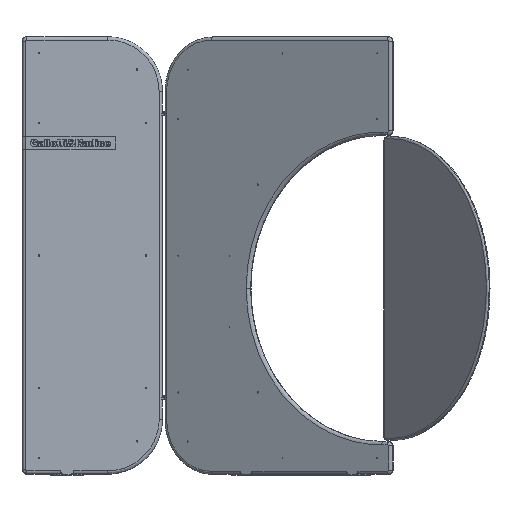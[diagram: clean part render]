
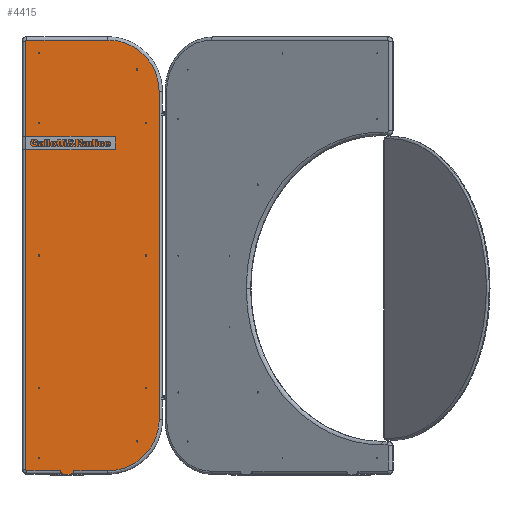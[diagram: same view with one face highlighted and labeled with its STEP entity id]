
A CAD part, front view. The second image highlights one B-rep face of the part: STEP entity #4415.
In plain terms, the highlighted planar face has unit normal (0, -1, 0).
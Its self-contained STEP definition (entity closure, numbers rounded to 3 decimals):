
#4415=ADVANCED_FACE('',(#5335),#22314,.T.);
#5335=FACE_OUTER_BOUND('',#6293,.T.);
#6293=EDGE_LOOP('',(#8672,#8673,#8674,#8675,#8676,#8677,#8678,#8679,#8680,
#8681,#8682,#8683,#8684,#8685));
#8672=ORIENTED_EDGE('',*,*,#12942,.T.);
#8673=ORIENTED_EDGE('',*,*,#12944,.F.);
#8674=ORIENTED_EDGE('',*,*,#12935,.T.);
#8675=ORIENTED_EDGE('',*,*,#12936,.T.);
#8676=ORIENTED_EDGE('',*,*,#12943,.T.);
#8677=ORIENTED_EDGE('',*,*,#12937,.T.);
#8678=ORIENTED_EDGE('',*,*,#13003,.T.);
#8679=ORIENTED_EDGE('',*,*,#12938,.T.);
#8680=ORIENTED_EDGE('',*,*,#13012,.T.);
#8681=ORIENTED_EDGE('',*,*,#12939,.T.);
#8682=ORIENTED_EDGE('',*,*,#12997,.T.);
#8683=ORIENTED_EDGE('',*,*,#12940,.T.);
#8684=ORIENTED_EDGE('',*,*,#13001,.T.);
#8685=ORIENTED_EDGE('',*,*,#12941,.T.);
#12935=EDGE_CURVE('',#19744,#19745,#16126,.T.);
#12936=EDGE_CURVE('',#19745,#19823,#18814,.T.);
#12937=EDGE_CURVE('',#19746,#19747,#16127,.T.);
#12938=EDGE_CURVE('',#19748,#19749,#16128,.T.);
#12939=EDGE_CURVE('',#19750,#19751,#16129,.T.);
#12940=EDGE_CURVE('',#19752,#19753,#16130,.T.);
#12941=EDGE_CURVE('',#19754,#19755,#16131,.T.);
#12942=EDGE_CURVE('',#19755,#19822,#18815,.T.);
#12943=EDGE_CURVE('',#19823,#19746,#18816,.T.);
#12944=EDGE_CURVE('',#19744,#19822,#18817,.T.);
#12997=EDGE_CURVE('',#19751,#19752,#18822,.T.);
#13001=EDGE_CURVE('',#19753,#19754,#18826,.T.);
#13003=EDGE_CURVE('',#19747,#19748,#18828,.T.);
#13012=EDGE_CURVE('',#19749,#19750,#18837,.T.);
#16126=B_SPLINE_CURVE_WITH_KNOTS('',1,(#30977,#30978),.UNSPECIFIED.,.F.,
 .F.,(2,2),(0.,30.),.UNSPECIFIED.);
#16127=B_SPLINE_CURVE_WITH_KNOTS('',1,(#30982,#30983),.UNSPECIFIED.,.F.,
 .F.,(2,2),(0.,155.),.UNSPECIFIED.);
#16128=B_SPLINE_CURVE_WITH_KNOTS('',1,(#30984,#30985),.UNSPECIFIED.,.F.,
 .F.,(2,2),(0.,1500.),.UNSPECIFIED.);
#16129=B_SPLINE_CURVE_WITH_KNOTS('',1,(#30986,#30987),.UNSPECIFIED.,.F.,
 .F.,(2,2),(0.,370.),.UNSPECIFIED.);
#16130=B_SPLINE_CURVE_WITH_KNOTS('',1,(#30988,#30989),.UNSPECIFIED.,.F.,
 .F.,(2,2),(0.,1960.),.UNSPECIFIED.);
#16131=B_SPLINE_CURVE_WITH_KNOTS('',1,(#30990,#30991),.UNSPECIFIED.,.F.,
 .F.,(2,2),(0.,155.),.UNSPECIFIED.);
#18814=(
BOUNDED_CURVE()
B_SPLINE_CURVE(2,(#30979,#30980,#30981),.UNSPECIFIED.,.F.,.F.)
B_SPLINE_CURVE_WITH_KNOTS((3,3),(0.,23.559),.UNSPECIFIED.)
CURVE()
GEOMETRIC_REPRESENTATION_ITEM()
RATIONAL_B_SPLINE_CURVE((1.,0.707,1.))
REPRESENTATION_ITEM('')
);
#18815=(
BOUNDED_CURVE()
B_SPLINE_CURVE(2,(#30992,#30993,#30994),.UNSPECIFIED.,.F.,.F.)
B_SPLINE_CURVE_WITH_KNOTS((3,3),(0.,0.003),.UNSPECIFIED.)
CURVE()
GEOMETRIC_REPRESENTATION_ITEM()
RATIONAL_B_SPLINE_CURVE((1.,1.,1.))
REPRESENTATION_ITEM('')
);
#18816=(
BOUNDED_CURVE()
B_SPLINE_CURVE(2,(#30995,#30996,#30997),.UNSPECIFIED.,.F.,.F.)
B_SPLINE_CURVE_WITH_KNOTS((3,3),(23.559,23.562),
 .UNSPECIFIED.)
CURVE()
GEOMETRIC_REPRESENTATION_ITEM()
RATIONAL_B_SPLINE_CURVE((1.,1.,1.))
REPRESENTATION_ITEM('')
);
#18817=(
BOUNDED_CURVE()
B_SPLINE_CURVE(2,(#30998,#30999,#31000),.UNSPECIFIED.,.F.,.F.)
B_SPLINE_CURVE_WITH_KNOTS((3,3),(-23.562,-0.003),
 .UNSPECIFIED.)
CURVE()
GEOMETRIC_REPRESENTATION_ITEM()
RATIONAL_B_SPLINE_CURVE((1.,0.707,1.))
REPRESENTATION_ITEM('')
);
#18822=(
BOUNDED_CURVE()
B_SPLINE_CURVE(2,(#31109,#31110,#31111),.UNSPECIFIED.,.F.,.F.)
B_SPLINE_CURVE_WITH_KNOTS((3,3),(-7.854,0.),.UNSPECIFIED.)
CURVE()
GEOMETRIC_REPRESENTATION_ITEM()
RATIONAL_B_SPLINE_CURVE((1.,0.707,1.))
REPRESENTATION_ITEM('')
);
#18826=(
BOUNDED_CURVE()
B_SPLINE_CURVE(2,(#31121,#31122,#31123),.UNSPECIFIED.,.F.,.F.)
B_SPLINE_CURVE_WITH_KNOTS((3,3),(-7.854,0.),.UNSPECIFIED.)
CURVE()
GEOMETRIC_REPRESENTATION_ITEM()
RATIONAL_B_SPLINE_CURVE((1.,0.707,1.))
REPRESENTATION_ITEM('')
);
#18828=(
BOUNDED_CURVE()
B_SPLINE_CURVE(2,(#31127,#31128,#31129),.UNSPECIFIED.,.F.,.F.)
B_SPLINE_CURVE_WITH_KNOTS((3,3),(-369.137,0.),.UNSPECIFIED.)
CURVE()
GEOMETRIC_REPRESENTATION_ITEM()
RATIONAL_B_SPLINE_CURVE((1.,0.707,1.))
REPRESENTATION_ITEM('')
);
#18837=(
BOUNDED_CURVE()
B_SPLINE_CURVE(2,(#31154,#31155,#31156),.UNSPECIFIED.,.F.,.F.)
B_SPLINE_CURVE_WITH_KNOTS((3,3),(-369.137,0.),.UNSPECIFIED.)
CURVE()
GEOMETRIC_REPRESENTATION_ITEM()
RATIONAL_B_SPLINE_CURVE((1.,0.707,1.))
REPRESENTATION_ITEM('')
);
#19744=VERTEX_POINT('',#30697);
#19745=VERTEX_POINT('',#30698);
#19746=VERTEX_POINT('',#30699);
#19747=VERTEX_POINT('',#30700);
#19748=VERTEX_POINT('',#30701);
#19749=VERTEX_POINT('',#30702);
#19750=VERTEX_POINT('',#30703);
#19751=VERTEX_POINT('',#30704);
#19752=VERTEX_POINT('',#30705);
#19753=VERTEX_POINT('',#30706);
#19754=VERTEX_POINT('',#30707);
#19755=VERTEX_POINT('',#30708);
#19822=VERTEX_POINT('',#30775);
#19823=VERTEX_POINT('',#30776);
#22314=PLANE('',#23523);
#23523=AXIS2_PLACEMENT_3D('',#30055,#24335,$);
#24335=DIRECTION('',(0.,-1.,0.));
#30055=CARTESIAN_POINT('',(-251.,-15.,-193.5));
#30697=CARTESIAN_POINT('',(-15.,-15.,5.));
#30698=CARTESIAN_POINT('',(15.,-15.,5.));
#30699=CARTESIAN_POINT('',(30.,-15.,20.));
#30700=CARTESIAN_POINT('',(185.,-15.,20.));
#30701=CARTESIAN_POINT('',(420.,-15.,255.));
#30702=CARTESIAN_POINT('',(420.,-15.,1755.));
#30703=CARTESIAN_POINT('',(185.,-15.,1990.));
#30704=CARTESIAN_POINT('',(-185.,-15.,1990.));
#30705=CARTESIAN_POINT('',(-190.,-15.,1985.));
#30706=CARTESIAN_POINT('',(-190.,-15.,25.));
#30707=CARTESIAN_POINT('',(-185.,-15.,20.));
#30708=CARTESIAN_POINT('',(-30.,-15.,20.));
#30775=CARTESIAN_POINT('',(-30.,-15.,19.997));
#30776=CARTESIAN_POINT('',(30.,-15.,19.997));
#30977=CARTESIAN_POINT('',(-15.,-15.,5.));
#30978=CARTESIAN_POINT('',(15.,-15.,5.));
#30979=CARTESIAN_POINT('',(15.,-15.,5.));
#30980=CARTESIAN_POINT('',(29.997,-15.,5.));
#30981=CARTESIAN_POINT('',(30.,-15.,19.997));
#30982=CARTESIAN_POINT('',(30.,-15.,20.));
#30983=CARTESIAN_POINT('',(185.,-15.,20.));
#30984=CARTESIAN_POINT('',(420.,-15.,255.));
#30985=CARTESIAN_POINT('',(420.,-15.,1755.));
#30986=CARTESIAN_POINT('',(185.,-15.,1990.));
#30987=CARTESIAN_POINT('',(-185.,-15.,1990.));
#30988=CARTESIAN_POINT('',(-190.,-15.,1985.));
#30989=CARTESIAN_POINT('',(-190.,-15.,25.));
#30990=CARTESIAN_POINT('',(-185.,-15.,20.));
#30991=CARTESIAN_POINT('',(-30.,-15.,20.));
#30992=CARTESIAN_POINT('',(-30.,-15.,20.));
#30993=CARTESIAN_POINT('',(-30.,-15.,19.999));
#30994=CARTESIAN_POINT('',(-30.,-15.,19.997));
#30995=CARTESIAN_POINT('',(30.,-15.,19.997));
#30996=CARTESIAN_POINT('',(30.,-15.,19.999));
#30997=CARTESIAN_POINT('',(30.,-15.,20.));
#30998=CARTESIAN_POINT('',(-15.,-15.,5.));
#30999=CARTESIAN_POINT('',(-29.997,-15.,5.));
#31000=CARTESIAN_POINT('',(-30.,-15.,19.997));
#31109=CARTESIAN_POINT('',(-185.,-15.,1990.));
#31110=CARTESIAN_POINT('',(-190.,-15.,1990.));
#31111=CARTESIAN_POINT('',(-190.,-15.,1985.));
#31121=CARTESIAN_POINT('',(-190.,-15.,25.));
#31122=CARTESIAN_POINT('',(-190.,-15.,20.));
#31123=CARTESIAN_POINT('',(-185.,-15.,20.));
#31127=CARTESIAN_POINT('',(185.,-15.,20.));
#31128=CARTESIAN_POINT('',(420.,-15.,20.));
#31129=CARTESIAN_POINT('',(420.,-15.,255.));
#31154=CARTESIAN_POINT('',(420.,-15.,1755.));
#31155=CARTESIAN_POINT('',(420.,-15.,1990.));
#31156=CARTESIAN_POINT('',(185.,-15.,1990.));
